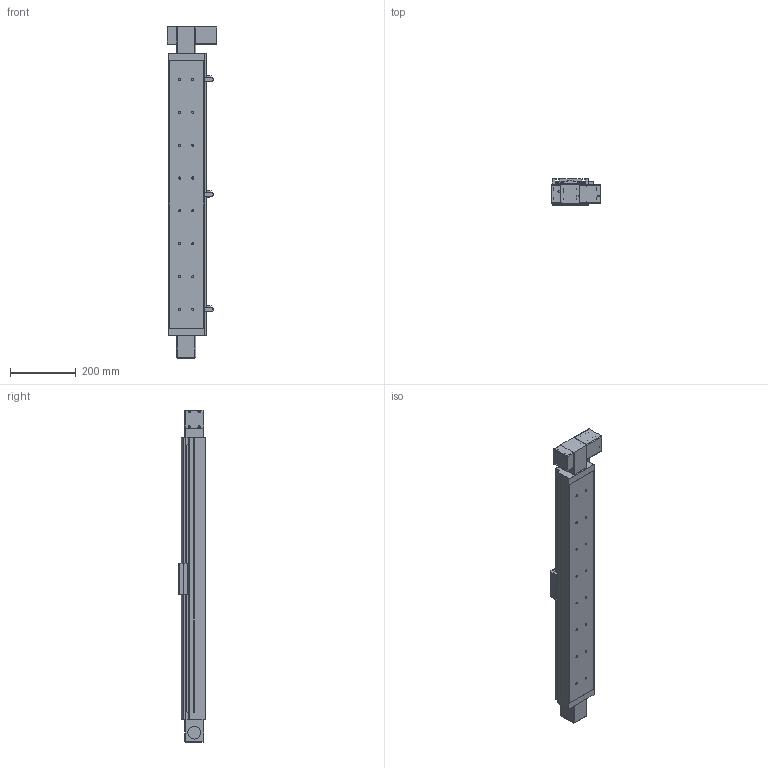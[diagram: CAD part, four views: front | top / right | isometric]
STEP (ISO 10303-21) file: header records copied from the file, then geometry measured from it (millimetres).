
FILE_DESCRIPTION((''),'2;1');
FILE_NAME('E:\uia actuator\UIA actuator 3d- 2015\Belt drive actuator\UIA110BR12(15)DC\UIA110BR12(15)DC-STEP FILE\UIA110BR12(15) stp file 13May16\UIA110BR12(15)DC-700-M23-P13-C10-S.stp','2016-05-13T15:55:02',('h029'),(''),'Autodesk Inventor 11','Autodesk Inventor 11','');
FILE_SCHEMA(('AUTOMOTIVE_DESIGN { 1 0 10303 214 1 1 1 1 }'));
Length unit declared in the file: millimetre
Products named in the file (11): UIA110BR12(15)DC-700; UIA110BR12(15)DC-700-body; UIA110BR12(15)DC-700-Sensor rail; UIA110B-Carriage; UIA110B- Sensor Flag; UIA110B-Cover; SOH-32C; SOH-32C-3; SOH-32C-1; SOH-32C-2; Motor mount
Assembly tree (10 placements, depth 3):
  UIA110BR12(15)DC-700
    UIA110BR12(15)DC-700-body
    UIA110BR12(15)DC-700-Sensor rail
    UIA110B-Carriage
    UIA110B- Sensor Flag
    UIA110B-Cover
    SOH-32C
      SOH-32C-3
      SOH-32C-1
      SOH-32C-2
    Motor mount
Bounding box: 152 x 81 x 1011 mm (x, y, z)
Volume: 3213912.2 mm3; surface area: 892137.2 mm2
Topology: 9 solids, 13 shells, 740 faces, 2074 edges, 1332 vertices
Faces by surface type: plane 463, cylinder 187, cone 42, bspline 40, sphere 8
Full cylindrical faces by diameter (mm): 2.459 x4, 3 x2, 3.242 x8, 3.5 x4, 4 x10, 4.5 x4, 4.917 x8, 5 x2, 6.35 x1, 6.5 x16, 7.5 x4, 10 x3, 11 x16, 12 x1, 20 x2, 32 x3, 37 x1, 38.1 x1, 39 x2, 43.5 x1, 46 x2
Entity records: 24538 total; most frequent: CARTESIAN_POINT 6081, DIRECTION 3771, ORIENTED_EDGE 3606, EDGE_CURVE 1803, AXIS2_PLACEMENT_3D 1288, VERTEX_POINT 1240, VECTOR 1195, LINE 1195
